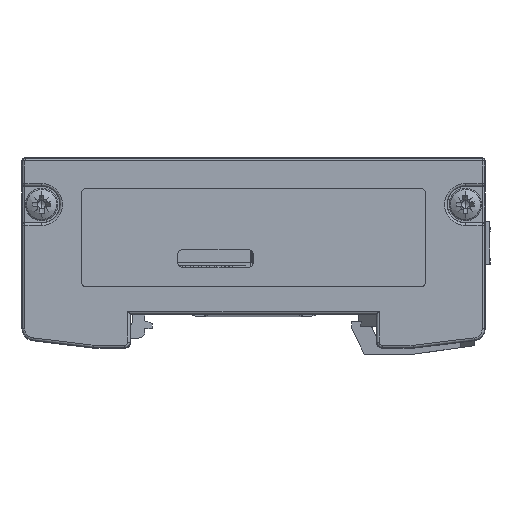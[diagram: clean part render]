
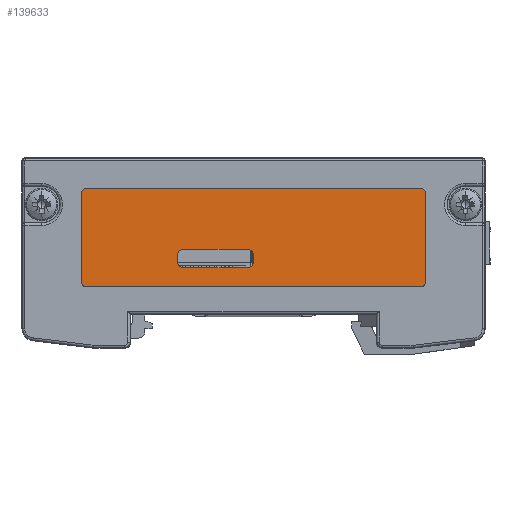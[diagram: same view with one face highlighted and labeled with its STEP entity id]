
A CAD part, left-side view. The second image highlights one B-rep face of the part: STEP entity #139633.
In plain terms, the highlighted planar face has unit normal (-1, 0, 0) as drawn and (0, 0, -1) by its records, which use the part's own axes.
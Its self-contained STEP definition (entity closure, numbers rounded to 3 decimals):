
#2016 = CARTESIAN_POINT ( 'NONE',  ( -20.25, 28., -3.9 ) ) ;
#2248 = ORIENTED_EDGE ( 'NONE', *, *, #66158, .T. ) ;
#5335 = CARTESIAN_POINT ( 'NONE',  ( 0., -12.4, -3.9 ) ) ;
#6277 = AXIS2_PLACEMENT_3D ( 'NONE', #139001, #189493, #30012 ) ;
#9034 = DIRECTION ( 'NONE',  ( 1., 0., 0. ) ) ;
#10471 = AXIS2_PLACEMENT_3D ( 'NONE', #148043, #43062, #132526 ) ;
#11542 = ORIENTED_EDGE ( 'NONE', *, *, #126896, .T. ) ;
#17911 = FACE_OUTER_BOUND ( 'NONE', #168996, .T. ) ;
#18835 = EDGE_CURVE ( 'NONE', #89861, #165704, #87362, .T. ) ;
#19529 = ORIENTED_EDGE ( 'NONE', *, *, #208310, .T. ) ;
#21495 = CARTESIAN_POINT ( 'NONE',  ( -16.9, 0., -3.9 ) ) ;
#22827 = ORIENTED_EDGE ( 'NONE', *, *, #226733, .F. ) ;
#24678 = CARTESIAN_POINT ( 'NONE',  ( -21., -27.25, -3.9 ) ) ;
#28221 = EDGE_CURVE ( 'NONE', #88524, #194348, #87300, .T. ) ;
#28621 = ORIENTED_EDGE ( 'NONE', *, *, #108044, .T. ) ;
#29581 = EDGE_CURVE ( 'NONE', #43799, #151324, #122407, .T. ) ;
#30012 = DIRECTION ( 'NONE',  ( -1., 0., 0. ) ) ;
#31456 = DIRECTION ( 'NONE',  ( 0., -1., 0. ) ) ;
#32668 = ORIENTED_EDGE ( 'NONE', *, *, #29581, .F. ) ;
#33628 = CARTESIAN_POINT ( 'NONE',  ( 0., 0., -3.9 ) ) ;
#34421 = VERTEX_POINT ( 'NONE', #145681 ) ;
#34457 = DIRECTION ( 'NONE',  ( -1., 0., 0. ) ) ;
#34680 = DIRECTION ( 'NONE',  ( -1., 0., 0. ) ) ;
#36961 = EDGE_CURVE ( 'NONE', #109688, #89861, #129122, .T. ) ;
#38216 = AXIS2_PLACEMENT_3D ( 'NONE', #107051, #159147, #34680 ) ;
#39195 = CIRCLE ( 'NONE', #38216, 1. ) ;
#41276 = VERTEX_POINT ( 'NONE', #191367 ) ;
#41320 = CIRCLE ( 'NONE', #227864, 0.75 ) ;
#42266 = CARTESIAN_POINT ( 'NONE',  ( -5., -27.25, -3.9 ) ) ;
#42286 = PLANE ( 'NONE',  #10471 ) ;
#43062 = DIRECTION ( 'NONE',  ( 0., 0., -1. ) ) ;
#43799 = VERTEX_POINT ( 'NONE', #112913 ) ;
#44148 = CARTESIAN_POINT ( 'NONE',  ( -21., 28., -3.9 ) ) ;
#48894 = CARTESIAN_POINT ( 'NONE',  ( -5., -28., -3.9 ) ) ;
#49798 = VECTOR ( 'NONE', #207058, 1000. ) ;
#53267 = CIRCLE ( 'NONE', #133095, 1. ) ;
#53321 = DIRECTION ( 'NONE',  ( 0., 0., -1. ) ) ;
#55214 = AXIS2_PLACEMENT_3D ( 'NONE', #192180, #85661, #124554 ) ;
#58994 = ORIENTED_EDGE ( 'NONE', *, *, #125613, .F. ) ;
#60802 = DIRECTION ( 'NONE',  ( -1., 0., 0. ) ) ;
#61903 = CIRCLE ( 'NONE', #190599, 0.75 ) ;
#63763 = VECTOR ( 'NONE', #91078, 1000. ) ;
#65014 = CARTESIAN_POINT ( 'NONE',  ( -17.9, 0., -3.9 ) ) ;
#66158 = EDGE_CURVE ( 'NONE', #144554, #88524, #75166, .T. ) ;
#66296 = EDGE_CURVE ( 'NONE', #34421, #185094, #97383, .T. ) ;
#70189 = DIRECTION ( 'NONE',  ( 0., 0., -1. ) ) ;
#70329 = CARTESIAN_POINT ( 'NONE',  ( -5.75, 28., -3.9 ) ) ;
#71160 = CARTESIAN_POINT ( 'NONE',  ( -5.75, 27.25, -3.9 ) ) ;
#71537 = ORIENTED_EDGE ( 'NONE', *, *, #229327, .F. ) ;
#75166 = LINE ( 'NONE', #136045, #139365 ) ;
#78452 = CARTESIAN_POINT ( 'NONE',  ( -16.9, -12.4, -3.9 ) ) ;
#79294 = CARTESIAN_POINT ( 'NONE',  ( -5., 27.25, -3.9 ) ) ;
#81193 = CARTESIAN_POINT ( 'NONE',  ( -20.25, -28., -3.9 ) ) ;
#84535 = EDGE_CURVE ( 'NONE', #126867, #34421, #61903, .T. ) ;
#85661 = DIRECTION ( 'NONE',  ( 0., 0., -1. ) ) ;
#86982 = EDGE_CURVE ( 'NONE', #41276, #109688, #53267, .T. ) ;
#87300 = CIRCLE ( 'NONE', #6277, 0.75 ) ;
#87362 = CIRCLE ( 'NONE', #167922, 1. ) ;
#88476 = ORIENTED_EDGE ( 'NONE', *, *, #209138, .T. ) ;
#88524 = VERTEX_POINT ( 'NONE', #106137 ) ;
#88884 = LINE ( 'NONE', #188243, #49798 ) ;
#89861 = VERTEX_POINT ( 'NONE', #169562 ) ;
#91078 = DIRECTION ( 'NONE',  ( -1., 0., 0. ) ) ;
#97383 = LINE ( 'NONE', #48894, #180701 ) ;
#98503 = VERTEX_POINT ( 'NONE', #70329 ) ;
#99860 = ORIENTED_EDGE ( 'NONE', *, *, #36961, .F. ) ;
#103432 = CARTESIAN_POINT ( 'NONE',  ( -14.9, -11.4, -3.9 ) ) ;
#103799 = CARTESIAN_POINT ( 'NONE',  ( -16.9, -1., -3.9 ) ) ;
#106137 = CARTESIAN_POINT ( 'NONE',  ( -21., 27.25, -3.9 ) ) ;
#107051 = CARTESIAN_POINT ( 'NONE',  ( -15.9, -11.4, -3.9 ) ) ;
#108044 = EDGE_CURVE ( 'NONE', #218548, #126867, #129587, .T. ) ;
#108660 = DIRECTION ( 'NONE',  ( -1., 0., 0. ) ) ;
#109138 = CIRCLE ( 'NONE', #55214, 1. ) ;
#109688 = VERTEX_POINT ( 'NONE', #21495 ) ;
#110786 = VERTEX_POINT ( 'NONE', #103432 ) ;
#111527 = DIRECTION ( 'NONE',  ( 0., 0., -1. ) ) ;
#111528 = ORIENTED_EDGE ( 'NONE', *, *, #123753, .F. ) ;
#112913 = CARTESIAN_POINT ( 'NONE',  ( -15.9, -12.4, -3.9 ) ) ;
#116300 = CARTESIAN_POINT ( 'NONE',  ( -17.9, -11.4, -3.9 ) ) ;
#122407 = LINE ( 'NONE', #5335, #63763 ) ;
#123537 = DIRECTION ( 'NONE',  ( -1., 0., 0. ) ) ;
#123753 = EDGE_CURVE ( 'NONE', #110786, #43799, #39195, .T. ) ;
#124486 = VECTOR ( 'NONE', #189446, 1000. ) ;
#124554 = DIRECTION ( 'NONE',  ( -1., 0., 0. ) ) ;
#125613 = EDGE_CURVE ( 'NONE', #151324, #193644, #109138, .T. ) ;
#126867 = VERTEX_POINT ( 'NONE', #42266 ) ;
#126896 = EDGE_CURVE ( 'NONE', #185094, #144554, #147187, .T. ) ;
#129122 = LINE ( 'NONE', #33628, #168113 ) ;
#129587 = LINE ( 'NONE', #152854, #151881 ) ;
#132526 = DIRECTION ( 'NONE',  ( -1., 0., 0. ) ) ;
#133095 = AXIS2_PLACEMENT_3D ( 'NONE', #103799, #70189, #34457 ) ;
#134994 = FACE_BOUND ( 'NONE', #179949, .T. ) ;
#136045 = CARTESIAN_POINT ( 'NONE',  ( -21., -28., -3.9 ) ) ;
#138291 = CARTESIAN_POINT ( 'NONE',  ( -5.75, -27.25, -3.9 ) ) ;
#139001 = CARTESIAN_POINT ( 'NONE',  ( -20.25, 27.25, -3.9 ) ) ;
#139365 = VECTOR ( 'NONE', #204556, 1000. ) ;
#139633 = ADVANCED_FACE ( 'NONE', ( #134994, #17911 ), #42286, .T. ) ;
#144260 = ORIENTED_EDGE ( 'NONE', *, *, #28221, .T. ) ;
#144412 = CARTESIAN_POINT ( 'NONE',  ( -15.9, -1., -3.9 ) ) ;
#144554 = VERTEX_POINT ( 'NONE', #24678 ) ;
#145681 = CARTESIAN_POINT ( 'NONE',  ( -5.75, -28., -3.9 ) ) ;
#147187 = CIRCLE ( 'NONE', #168639, 0.75 ) ;
#148043 = CARTESIAN_POINT ( 'NONE',  ( 0., 0., -3.9 ) ) ;
#149399 = LINE ( 'NONE', #65014, #124486 ) ;
#151324 = VERTEX_POINT ( 'NONE', #78452 ) ;
#151560 = ORIENTED_EDGE ( 'NONE', *, *, #86982, .F. ) ;
#151881 = VECTOR ( 'NONE', #31456, 1000. ) ;
#152854 = CARTESIAN_POINT ( 'NONE',  ( -5., 28., -3.9 ) ) ;
#158130 = DIRECTION ( 'NONE',  ( 1., 0., 0. ) ) ;
#159147 = DIRECTION ( 'NONE',  ( 0., 0., -1. ) ) ;
#160210 = LINE ( 'NONE', #44148, #163083 ) ;
#161413 = DIRECTION ( 'NONE',  ( -1., 0., 0. ) ) ;
#163083 = VECTOR ( 'NONE', #9034, 1000. ) ;
#165704 = VERTEX_POINT ( 'NONE', #202530 ) ;
#167922 = AXIS2_PLACEMENT_3D ( 'NONE', #144412, #177786, #108660 ) ;
#168113 = VECTOR ( 'NONE', #158130, 1000. ) ;
#168639 = AXIS2_PLACEMENT_3D ( 'NONE', #218140, #111527, #60802 ) ;
#168996 = EDGE_LOOP ( 'NONE', ( #2248, #144260, #88476, #19529, #28621, #201291, #202217, #11542 ) ) ;
#169562 = CARTESIAN_POINT ( 'NONE',  ( -15.9, 0., -3.9 ) ) ;
#177786 = DIRECTION ( 'NONE',  ( 0., 0., -1. ) ) ;
#179949 = EDGE_LOOP ( 'NONE', ( #193909, #99860, #151560, #71537, #58994, #32668, #111528, #22827 ) ) ;
#180701 = VECTOR ( 'NONE', #123537, 1000. ) ;
#185094 = VERTEX_POINT ( 'NONE', #81193 ) ;
#188243 = CARTESIAN_POINT ( 'NONE',  ( -14.9, 0., -3.9 ) ) ;
#189446 = DIRECTION ( 'NONE',  ( 0., 1., 0. ) ) ;
#189493 = DIRECTION ( 'NONE',  ( 0., 0., -1. ) ) ;
#190599 = AXIS2_PLACEMENT_3D ( 'NONE', #138291, #191107, #208301 ) ;
#191107 = DIRECTION ( 'NONE',  ( 0., 0., -1. ) ) ;
#191367 = CARTESIAN_POINT ( 'NONE',  ( -17.9, -1., -3.9 ) ) ;
#192180 = CARTESIAN_POINT ( 'NONE',  ( -16.9, -11.4, -3.9 ) ) ;
#193644 = VERTEX_POINT ( 'NONE', #116300 ) ;
#193909 = ORIENTED_EDGE ( 'NONE', *, *, #18835, .F. ) ;
#194348 = VERTEX_POINT ( 'NONE', #2016 ) ;
#201291 = ORIENTED_EDGE ( 'NONE', *, *, #84535, .T. ) ;
#202217 = ORIENTED_EDGE ( 'NONE', *, *, #66296, .T. ) ;
#202530 = CARTESIAN_POINT ( 'NONE',  ( -14.9, -1., -3.9 ) ) ;
#204556 = DIRECTION ( 'NONE',  ( 0., 1., 0. ) ) ;
#207058 = DIRECTION ( 'NONE',  ( 0., -1., 0. ) ) ;
#208301 = DIRECTION ( 'NONE',  ( -1., 0., 0. ) ) ;
#208310 = EDGE_CURVE ( 'NONE', #98503, #218548, #41320, .T. ) ;
#209138 = EDGE_CURVE ( 'NONE', #194348, #98503, #160210, .T. ) ;
#218140 = CARTESIAN_POINT ( 'NONE',  ( -20.25, -27.25, -3.9 ) ) ;
#218548 = VERTEX_POINT ( 'NONE', #79294 ) ;
#226733 = EDGE_CURVE ( 'NONE', #165704, #110786, #88884, .T. ) ;
#227864 = AXIS2_PLACEMENT_3D ( 'NONE', #71160, #53321, #161413 ) ;
#229327 = EDGE_CURVE ( 'NONE', #193644, #41276, #149399, .T. ) ;
